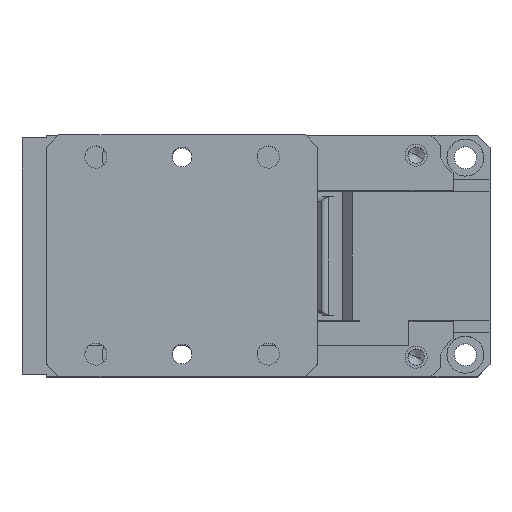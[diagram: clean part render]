
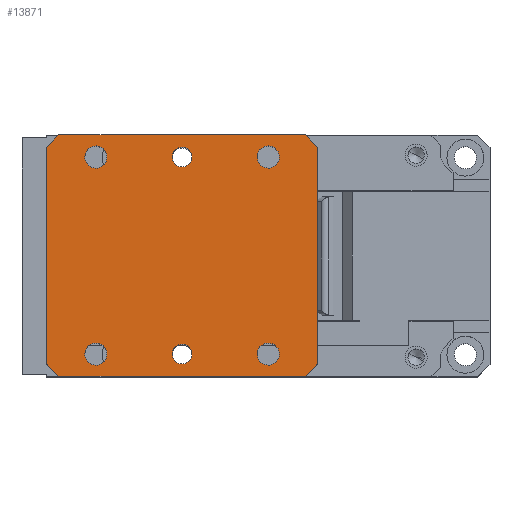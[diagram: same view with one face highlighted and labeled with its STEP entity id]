
A CAD part, top view. The second image highlights one B-rep face of the part: STEP entity #13871.
In plain terms, the highlighted planar face has unit normal (0, 0, 1).
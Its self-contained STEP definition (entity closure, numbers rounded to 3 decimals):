
#13278=CARTESIAN_POINT('Vertex',(5.,49.,200.)) ;
#13281=CARTESIAN_POINT('Line Origine',(55.,49.,200.)) ;
#13285=CARTESIAN_POINT('Vertex',(105.,49.,200.)) ;
#13401=CARTESIAN_POINT('Vertex',(0.,44.,200.)) ;
#13404=CARTESIAN_POINT('Line Origine',(0.,44.,200.)) ;
#13544=CARTESIAN_POINT('Vertex',(105.,-49.,200.)) ;
#13549=CARTESIAN_POINT('Line Origine',(55.,-49.,200.)) ;
#13553=CARTESIAN_POINT('Vertex',(5.,-49.,200.)) ;
#13667=CARTESIAN_POINT('Line Origine',(0.,-44.,200.)) ;
#13671=CARTESIAN_POINT('Vertex',(0.,-44.,200.)) ;
#13724=CARTESIAN_POINT('Axis2P3D Location',(142.935,0.,200.)) ;
#13729=CARTESIAN_POINT('Line Origine',(107.5,-46.5,200.)) ;
#13733=CARTESIAN_POINT('Vertex',(110.,-44.,200.)) ;
#13736=CARTESIAN_POINT('Line Origine',(110.,0.,200.)) ;
#13740=CARTESIAN_POINT('Vertex',(110.,44.,200.)) ;
#13743=CARTESIAN_POINT('Line Origine',(107.5,46.5,200.)) ;
#13748=CARTESIAN_POINT('Line Origine',(0.,0.,200.)) ;
#13763=CARTESIAN_POINT('Axis2P3D Location',(20.,-40.,200.)) ;
#13767=CARTESIAN_POINT('Vertex',(17.843,-36.051,200.)) ;
#13769=CARTESIAN_POINT('Vertex',(22.157,-43.949,200.)) ;
#13772=CARTESIAN_POINT('Axis2P3D Location',(20.,-40.,200.)) ;
#13781=CARTESIAN_POINT('Axis2P3D Location',(90.,-40.,200.)) ;
#13785=CARTESIAN_POINT('Vertex',(87.843,-36.051,200.)) ;
#13787=CARTESIAN_POINT('Vertex',(92.157,-43.949,200.)) ;
#13790=CARTESIAN_POINT('Axis2P3D Location',(90.,-40.,200.)) ;
#13799=CARTESIAN_POINT('Axis2P3D Location',(90.,40.,200.)) ;
#13803=CARTESIAN_POINT('Vertex',(87.843,43.949,200.)) ;
#13805=CARTESIAN_POINT('Vertex',(92.157,36.051,200.)) ;
#13808=CARTESIAN_POINT('Axis2P3D Location',(90.,40.,200.)) ;
#13817=CARTESIAN_POINT('Axis2P3D Location',(20.,40.,200.)) ;
#13821=CARTESIAN_POINT('Vertex',(17.843,43.949,200.)) ;
#13823=CARTESIAN_POINT('Vertex',(22.157,36.051,200.)) ;
#13826=CARTESIAN_POINT('Axis2P3D Location',(20.,40.,200.)) ;
#13835=CARTESIAN_POINT('Axis2P3D Location',(55.,-40.,200.)) ;
#13839=CARTESIAN_POINT('Vertex',(53.082,-36.49,200.)) ;
#13841=CARTESIAN_POINT('Vertex',(56.918,-43.51,200.)) ;
#13844=CARTESIAN_POINT('Axis2P3D Location',(55.,-40.,200.)) ;
#13853=CARTESIAN_POINT('Axis2P3D Location',(55.,40.,200.)) ;
#13857=CARTESIAN_POINT('Vertex',(53.082,43.51,200.)) ;
#13859=CARTESIAN_POINT('Vertex',(56.918,36.49,200.)) ;
#13862=CARTESIAN_POINT('Axis2P3D Location',(55.,40.,200.)) ;
#13283=VECTOR('Line Direction',#13282,1.) ;
#13406=VECTOR('Line Direction',#13405,1.) ;
#13551=VECTOR('Line Direction',#13550,1.) ;
#13669=VECTOR('Line Direction',#13668,1.) ;
#13731=VECTOR('Line Direction',#13730,1.) ;
#13738=VECTOR('Line Direction',#13737,1.) ;
#13745=VECTOR('Line Direction',#13744,1.) ;
#13750=VECTOR('Line Direction',#13749,1.) ;
#13282=DIRECTION('Vector Direction',(-1.,0.,0.)) ;
#13405=DIRECTION('Vector Direction',(0.707,0.707,0.)) ;
#13550=DIRECTION('Vector Direction',(-1.,0.,0.)) ;
#13668=DIRECTION('Vector Direction',(0.707,-0.707,0.)) ;
#13725=DIRECTION('Axis2P3D Direction',(0.,0.,1.)) ;
#13726=DIRECTION('Axis2P3D XDirection',(-1.,0.,0.)) ;
#13730=DIRECTION('Vector Direction',(-0.707,-0.707,0.)) ;
#13737=DIRECTION('Vector Direction',(0.,1.,0.)) ;
#13744=DIRECTION('Vector Direction',(-0.707,0.707,0.)) ;
#13749=DIRECTION('Vector Direction',(0.,-1.,0.)) ;
#13764=DIRECTION('Axis2P3D Direction',(0.,0.,1.)) ;
#13773=DIRECTION('Axis2P3D Direction',(0.,0.,1.)) ;
#13782=DIRECTION('Axis2P3D Direction',(0.,0.,1.)) ;
#13791=DIRECTION('Axis2P3D Direction',(0.,0.,1.)) ;
#13800=DIRECTION('Axis2P3D Direction',(0.,0.,1.)) ;
#13809=DIRECTION('Axis2P3D Direction',(0.,0.,1.)) ;
#13818=DIRECTION('Axis2P3D Direction',(0.,0.,1.)) ;
#13827=DIRECTION('Axis2P3D Direction',(0.,0.,1.)) ;
#13836=DIRECTION('Axis2P3D Direction',(0.,0.,1.)) ;
#13845=DIRECTION('Axis2P3D Direction',(0.,0.,1.)) ;
#13854=DIRECTION('Axis2P3D Direction',(0.,0.,1.)) ;
#13863=DIRECTION('Axis2P3D Direction',(0.,0.,1.)) ;
#13727=AXIS2_PLACEMENT_3D('Plane Axis2P3D',#13724,#13725,#13726) ;
#13765=AXIS2_PLACEMENT_3D('Circle Axis2P3D',#13763,#13764,$) ;
#13774=AXIS2_PLACEMENT_3D('Circle Axis2P3D',#13772,#13773,$) ;
#13783=AXIS2_PLACEMENT_3D('Circle Axis2P3D',#13781,#13782,$) ;
#13792=AXIS2_PLACEMENT_3D('Circle Axis2P3D',#13790,#13791,$) ;
#13801=AXIS2_PLACEMENT_3D('Circle Axis2P3D',#13799,#13800,$) ;
#13810=AXIS2_PLACEMENT_3D('Circle Axis2P3D',#13808,#13809,$) ;
#13819=AXIS2_PLACEMENT_3D('Circle Axis2P3D',#13817,#13818,$) ;
#13828=AXIS2_PLACEMENT_3D('Circle Axis2P3D',#13826,#13827,$) ;
#13837=AXIS2_PLACEMENT_3D('Circle Axis2P3D',#13835,#13836,$) ;
#13846=AXIS2_PLACEMENT_3D('Circle Axis2P3D',#13844,#13845,$) ;
#13855=AXIS2_PLACEMENT_3D('Circle Axis2P3D',#13853,#13854,$) ;
#13864=AXIS2_PLACEMENT_3D('Circle Axis2P3D',#13862,#13863,$) ;
#13284=LINE('Line',#13281,#13283) ;
#13407=LINE('Line',#13404,#13406) ;
#13552=LINE('Line',#13549,#13551) ;
#13670=LINE('Line',#13667,#13669) ;
#13732=LINE('Line',#13729,#13731) ;
#13739=LINE('Line',#13736,#13738) ;
#13746=LINE('Line',#13743,#13745) ;
#13751=LINE('Line',#13748,#13750) ;
#13766=CIRCLE('generated circle',#13765,4.5) ;
#13775=CIRCLE('generated circle',#13774,4.5) ;
#13784=CIRCLE('generated circle',#13783,4.5) ;
#13793=CIRCLE('generated circle',#13792,4.5) ;
#13802=CIRCLE('generated circle',#13801,4.5) ;
#13811=CIRCLE('generated circle',#13810,4.5) ;
#13820=CIRCLE('generated circle',#13819,4.5) ;
#13829=CIRCLE('generated circle',#13828,4.5) ;
#13838=CIRCLE('generated circle',#13837,4.) ;
#13847=CIRCLE('generated circle',#13846,4.) ;
#13856=CIRCLE('generated circle',#13855,4.) ;
#13865=CIRCLE('generated circle',#13864,4.) ;
#13728=PLANE('',#13727) ;
#13780=FACE_BOUND('',#13777,.T.) ;
#13798=FACE_BOUND('',#13795,.T.) ;
#13816=FACE_BOUND('',#13813,.T.) ;
#13834=FACE_BOUND('',#13831,.T.) ;
#13852=FACE_BOUND('',#13849,.T.) ;
#13870=FACE_BOUND('',#13867,.T.) ;
#13287=EDGE_CURVE('',#13286,#13279,#13284,.T.) ;
#13408=EDGE_CURVE('',#13402,#13279,#13407,.T.) ;
#13555=EDGE_CURVE('',#13545,#13554,#13552,.T.) ;
#13673=EDGE_CURVE('',#13672,#13554,#13670,.T.) ;
#13735=EDGE_CURVE('',#13734,#13545,#13732,.T.) ;
#13742=EDGE_CURVE('',#13741,#13734,#13739,.F.) ;
#13747=EDGE_CURVE('',#13741,#13286,#13746,.T.) ;
#13752=EDGE_CURVE('',#13672,#13402,#13751,.F.) ;
#13771=EDGE_CURVE('',#13768,#13770,#13766,.T.) ;
#13776=EDGE_CURVE('',#13770,#13768,#13775,.T.) ;
#13789=EDGE_CURVE('',#13786,#13788,#13784,.T.) ;
#13794=EDGE_CURVE('',#13788,#13786,#13793,.T.) ;
#13807=EDGE_CURVE('',#13804,#13806,#13802,.T.) ;
#13812=EDGE_CURVE('',#13806,#13804,#13811,.T.) ;
#13825=EDGE_CURVE('',#13822,#13824,#13820,.T.) ;
#13830=EDGE_CURVE('',#13824,#13822,#13829,.T.) ;
#13843=EDGE_CURVE('',#13840,#13842,#13838,.T.) ;
#13848=EDGE_CURVE('',#13842,#13840,#13847,.T.) ;
#13861=EDGE_CURVE('',#13858,#13860,#13856,.T.) ;
#13866=EDGE_CURVE('',#13860,#13858,#13865,.T.) ;
#13753=EDGE_LOOP('',(#13754,#13755,#13756,#13757,#13758,#13759,#13760,#13761)) ;
#13777=EDGE_LOOP('',(#13778,#13779)) ;
#13795=EDGE_LOOP('',(#13796,#13797)) ;
#13813=EDGE_LOOP('',(#13814,#13815)) ;
#13831=EDGE_LOOP('',(#13832,#13833)) ;
#13849=EDGE_LOOP('',(#13850,#13851)) ;
#13867=EDGE_LOOP('',(#13868,#13869)) ;
#13754=ORIENTED_EDGE('',*,*,#13673,.T.) ;
#13755=ORIENTED_EDGE('',*,*,#13555,.F.) ;
#13756=ORIENTED_EDGE('',*,*,#13735,.F.) ;
#13757=ORIENTED_EDGE('',*,*,#13742,.F.) ;
#13758=ORIENTED_EDGE('',*,*,#13747,.T.) ;
#13759=ORIENTED_EDGE('',*,*,#13287,.T.) ;
#13760=ORIENTED_EDGE('',*,*,#13408,.F.) ;
#13761=ORIENTED_EDGE('',*,*,#13752,.F.) ;
#13778=ORIENTED_EDGE('',*,*,#13771,.F.) ;
#13779=ORIENTED_EDGE('',*,*,#13776,.F.) ;
#13796=ORIENTED_EDGE('',*,*,#13789,.F.) ;
#13797=ORIENTED_EDGE('',*,*,#13794,.F.) ;
#13814=ORIENTED_EDGE('',*,*,#13807,.F.) ;
#13815=ORIENTED_EDGE('',*,*,#13812,.F.) ;
#13832=ORIENTED_EDGE('',*,*,#13825,.F.) ;
#13833=ORIENTED_EDGE('',*,*,#13830,.F.) ;
#13850=ORIENTED_EDGE('',*,*,#13843,.F.) ;
#13851=ORIENTED_EDGE('',*,*,#13848,.F.) ;
#13868=ORIENTED_EDGE('',*,*,#13861,.F.) ;
#13869=ORIENTED_EDGE('',*,*,#13866,.F.) ;
#13279=VERTEX_POINT('',#13278) ;
#13286=VERTEX_POINT('',#13285) ;
#13402=VERTEX_POINT('',#13401) ;
#13545=VERTEX_POINT('',#13544) ;
#13554=VERTEX_POINT('',#13553) ;
#13672=VERTEX_POINT('',#13671) ;
#13734=VERTEX_POINT('',#13733) ;
#13741=VERTEX_POINT('',#13740) ;
#13768=VERTEX_POINT('',#13767) ;
#13770=VERTEX_POINT('',#13769) ;
#13786=VERTEX_POINT('',#13785) ;
#13788=VERTEX_POINT('',#13787) ;
#13804=VERTEX_POINT('',#13803) ;
#13806=VERTEX_POINT('',#13805) ;
#13822=VERTEX_POINT('',#13821) ;
#13824=VERTEX_POINT('',#13823) ;
#13840=VERTEX_POINT('',#13839) ;
#13842=VERTEX_POINT('',#13841) ;
#13858=VERTEX_POINT('',#13857) ;
#13860=VERTEX_POINT('',#13859) ;
#13871=ADVANCED_FACE('opened position',(#13762,#13780,#13798,#13816,#13834,#13852,#13870),#13728,.T.) ;
#13762=FACE_OUTER_BOUND('',#13753,.T.) ;
